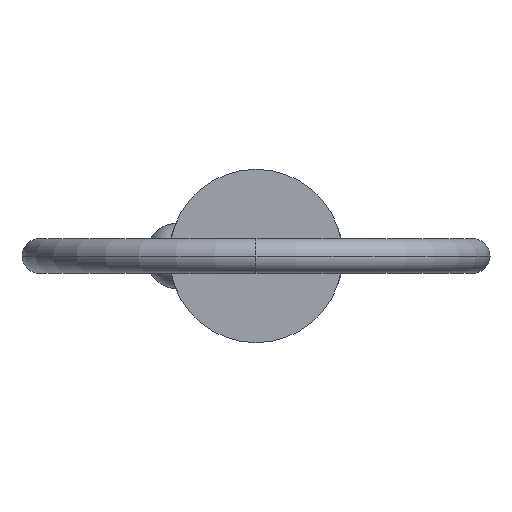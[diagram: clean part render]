
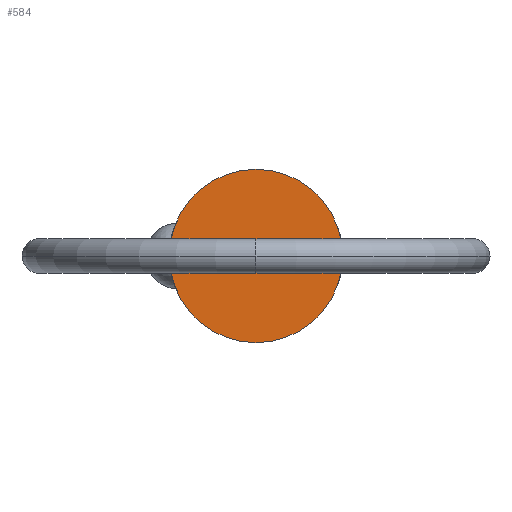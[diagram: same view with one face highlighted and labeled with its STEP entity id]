
A CAD part, left-side view. The second image highlights one B-rep face of the part: STEP entity #584.
In plain terms, the highlighted planar face has unit normal (-1, 0, 0).
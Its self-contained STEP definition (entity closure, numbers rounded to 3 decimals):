
#2 = VERTEX_POINT ( 'NONE', #884 ) ;
#78 = CARTESIAN_POINT ( 'NONE',  ( 0., 0., 0. ) ) ;
#87 = DIRECTION ( 'NONE',  ( 0., 0., 1. ) ) ;
#141 = ORIENTED_EDGE ( 'NONE', *, *, #873, .F. ) ;
#147 = AXIS2_PLACEMENT_3D ( 'NONE', #78, #360, #87 ) ;
#200 = CARTESIAN_POINT ( 'NONE',  ( 0., 0., 0. ) ) ;
#201 = VERTEX_POINT ( 'NONE', #339 ) ;
#211 = EDGE_LOOP ( 'NONE', ( #141, #362 ) ) ;
#227 = CIRCLE ( 'NONE', #821, 6.35 ) ;
#339 = CARTESIAN_POINT ( 'NONE',  ( 0., 0., -6.35 ) ) ;
#360 = DIRECTION ( 'NONE',  ( -1., 0., 0. ) ) ;
#362 = ORIENTED_EDGE ( 'NONE', *, *, #504, .F. ) ;
#421 = DIRECTION ( 'NONE',  ( 0., 0., -1. ) ) ;
#432 = PLANE ( 'NONE',  #147 ) ;
#453 = CARTESIAN_POINT ( 'NONE',  ( 0., 0., 0. ) ) ;
#457 = DIRECTION ( 'NONE',  ( 0., 0., -1. ) ) ;
#504 = EDGE_CURVE ( 'NONE', #2, #201, #227, .T. ) ;
#584 = ADVANCED_FACE ( 'NONE', ( #846 ), #432, .T. ) ;
#680 = DIRECTION ( 'NONE',  ( 1., 0., 0. ) ) ;
#708 = AXIS2_PLACEMENT_3D ( 'NONE', #453, #784, #457 ) ;
#784 = DIRECTION ( 'NONE',  ( 1., 0., 0. ) ) ;
#821 = AXIS2_PLACEMENT_3D ( 'NONE', #200, #680, #421 ) ;
#846 = FACE_OUTER_BOUND ( 'NONE', #211, .T. ) ;
#860 = CIRCLE ( 'NONE', #708, 6.35 ) ;
#873 = EDGE_CURVE ( 'NONE', #201, #2, #860, .T. ) ;
#884 = CARTESIAN_POINT ( 'NONE',  ( 0., 0., 6.35 ) ) ;
